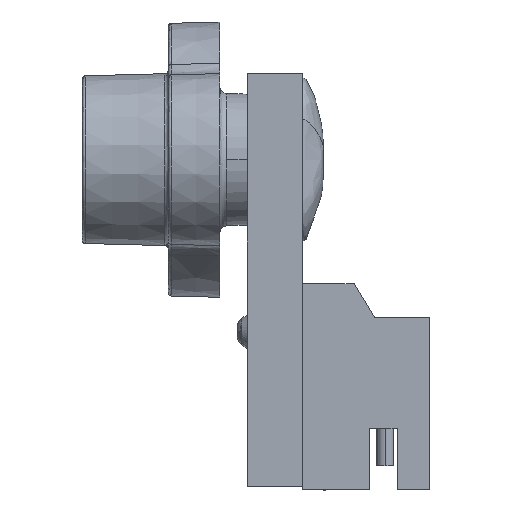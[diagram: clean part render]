
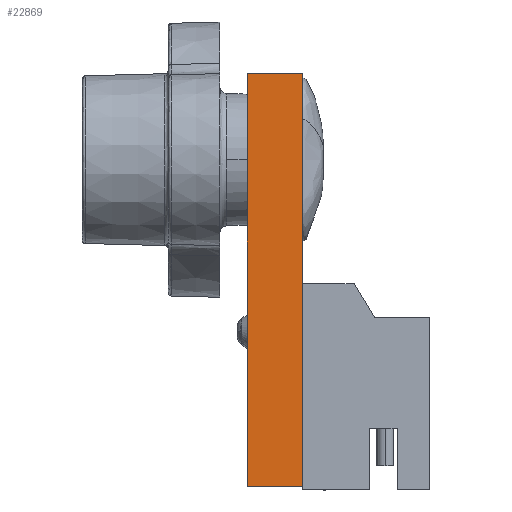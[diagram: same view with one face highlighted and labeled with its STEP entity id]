
A CAD part, left-side view. The second image highlights one B-rep face of the part: STEP entity #22869.
In plain terms, the highlighted planar face has unit normal (-1, 0, 0) as drawn and (1, 0, 0) by its records, which use the part's own axes.
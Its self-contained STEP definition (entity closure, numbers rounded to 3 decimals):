
#517 = EDGE_LOOP ( 'NONE', ( #19650, #3421, #21765, #12879 ) ) ;
#709 = VECTOR ( 'NONE', #4929, 1000. ) ;
#790 = LINE ( 'NONE', #20353, #709 ) ;
#1409 = VERTEX_POINT ( 'NONE', #16775 ) ;
#1961 = CARTESIAN_POINT ( 'NONE',  ( 9.5, 1.6, 6. ) ) ;
#2682 = DIRECTION ( 'NONE',  ( -1., 0., 0. ) ) ;
#3297 = CARTESIAN_POINT ( 'NONE',  ( 9.5, 1.6, -6. ) ) ;
#3421 = ORIENTED_EDGE ( 'NONE', *, *, #21119, .F. ) ;
#3841 = CARTESIAN_POINT ( 'NONE',  ( 9.5, 0., 6. ) ) ;
#4929 = DIRECTION ( 'NONE',  ( 0., 0., 1. ) ) ;
#5034 = CARTESIAN_POINT ( 'NONE',  ( 9.5, 1.6, 6. ) ) ;
#5086 = DIRECTION ( 'NONE',  ( 0., 1., 0. ) ) ;
#5378 = CARTESIAN_POINT ( 'NONE',  ( 9.5, 1.6, 6. ) ) ;
#5989 = VERTEX_POINT ( 'NONE', #17047 ) ;
#6365 = VECTOR ( 'NONE', #13955, 1000. ) ;
#8311 = EDGE_CURVE ( 'NONE', #1409, #14597, #790, .T. ) ;
#8330 = AXIS2_PLACEMENT_3D ( 'NONE', #20165, #2682, #10485 ) ;
#10485 = DIRECTION ( 'NONE',  ( 0., 0., 1. ) ) ;
#12376 = FACE_OUTER_BOUND ( 'NONE', #517, .T. ) ;
#12879 = ORIENTED_EDGE ( 'NONE', *, *, #8311, .F. ) ;
#12936 = VECTOR ( 'NONE', #16853, 1000. ) ;
#13955 = DIRECTION ( 'NONE',  ( 0., 0., -1. ) ) ;
#14200 = VERTEX_POINT ( 'NONE', #5034 ) ;
#14597 = VERTEX_POINT ( 'NONE', #3841 ) ;
#14770 = LINE ( 'NONE', #3297, #21027 ) ;
#16203 = PLANE ( 'NONE',  #8330 ) ;
#16775 = CARTESIAN_POINT ( 'NONE',  ( 9.5, 0., -6. ) ) ;
#16853 = DIRECTION ( 'NONE',  ( 0., -1., 0. ) ) ;
#17047 = CARTESIAN_POINT ( 'NONE',  ( 9.5, 1.6, -6. ) ) ;
#18295 = LINE ( 'NONE', #5378, #12936 ) ;
#19489 = LINE ( 'NONE', #1961, #6365 ) ;
#19650 = ORIENTED_EDGE ( 'NONE', *, *, #20976, .T. ) ;
#20165 = CARTESIAN_POINT ( 'NONE',  ( 9.5, 1.6, 6. ) ) ;
#20353 = CARTESIAN_POINT ( 'NONE',  ( 9.5, 0., 0. ) ) ;
#20976 = EDGE_CURVE ( 'NONE', #1409, #5989, #14770, .T. ) ;
#21027 = VECTOR ( 'NONE', #5086, 1000. ) ;
#21119 = EDGE_CURVE ( 'NONE', #14200, #5989, #19489, .T. ) ;
#21765 = ORIENTED_EDGE ( 'NONE', *, *, #25300, .T. ) ;
#22869 = ADVANCED_FACE ( 'NONE', ( #12376 ), #16203, .F. ) ;
#25300 = EDGE_CURVE ( 'NONE', #14200, #14597, #18295, .T. ) ;
